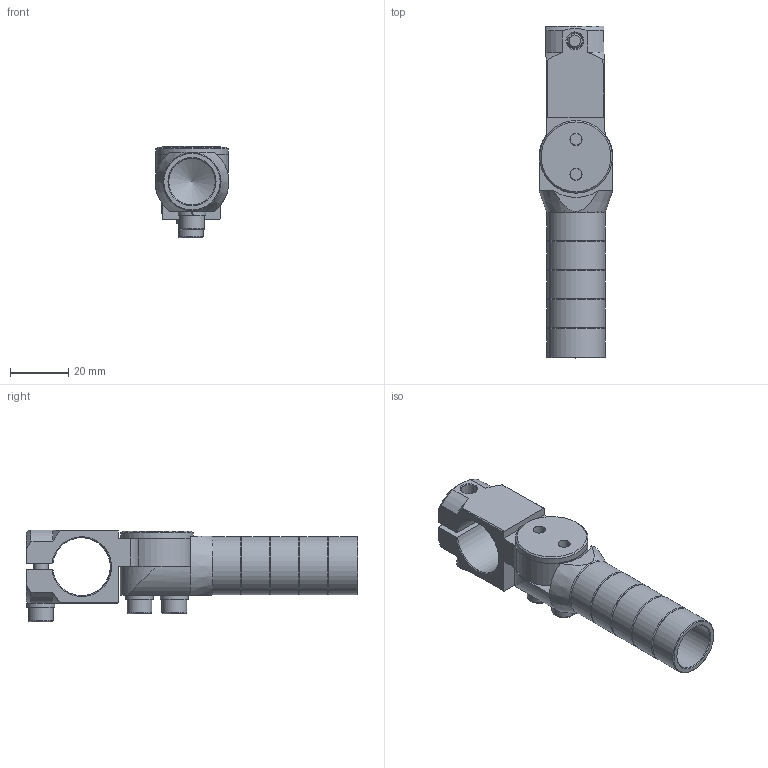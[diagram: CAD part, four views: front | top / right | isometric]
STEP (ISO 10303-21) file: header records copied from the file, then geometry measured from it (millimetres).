
FILE_DESCRIPTION(/* description */ ('Elbow Gripper Arm'),/* implementation_level */ '2;1');
FILE_NAME(/* name */ 'EGA-20-20-50.STEP',/* time_stamp */ '2026-02-10T14:23:26-05:00',/* author */ ('Design2'),/* organization */ ('CCS Design LLC'),/* preprocessor_version */ 'ST-DEVELOPER v20',/* originating_system */ 'Autodesk Inventor 2025',/* authorisation */ '');
FILE_SCHEMA (('AUTOMOTIVE_DESIGN { 1 0 10303 214 3 1 1 }'));
Length unit declared in the file: inch
Products named in the file (7): EGA-20-20-50; M-EGA-20-50-S; M-EGA-20-H; M-EGA-20-I; ANSI B18.21.1 - 0.216; ANSI B18.3.1M - M5x0.8 x 22; ANSI B18.3.1M - M5x0.8 x 20
Assembly tree (9 placements, depth 2):
  EGA-20-20-50
    M-EGA-20-50-S
    M-EGA-20-H
    M-EGA-20-I
    ANSI B18.21.1 - 0.216  x3
    ANSI B18.3.1M - M5x0.8 x 20  x2
    ANSI B18.3.1M - M5x0.8 x 22
Bounding box: 25.4 x 114.4 x 31.67 mm (x, y, z)
Volume: 29614.3 mm3; surface area: 20063.1 mm2
Topology: 9 solids, 9 shells, 148 faces, 360 edges, 233 vertices
Faces by surface type: plane 61, cylinder 45, cone 36, torus 6
Full cylindrical faces by diameter (mm): 4.14 x3, 5 x3, 5.512 x3, 8.5 x3, 16 x1, 20 x9, 25 x1
Entity records: 3944 total; most frequent: CARTESIAN_POINT 743, DIRECTION 665, ORIENTED_EDGE 594, EDGE_CURVE 297, AXIS2_PLACEMENT_3D 269, VERTEX_POINT 193, EDGE_LOOP 142, CIRCLE 128
